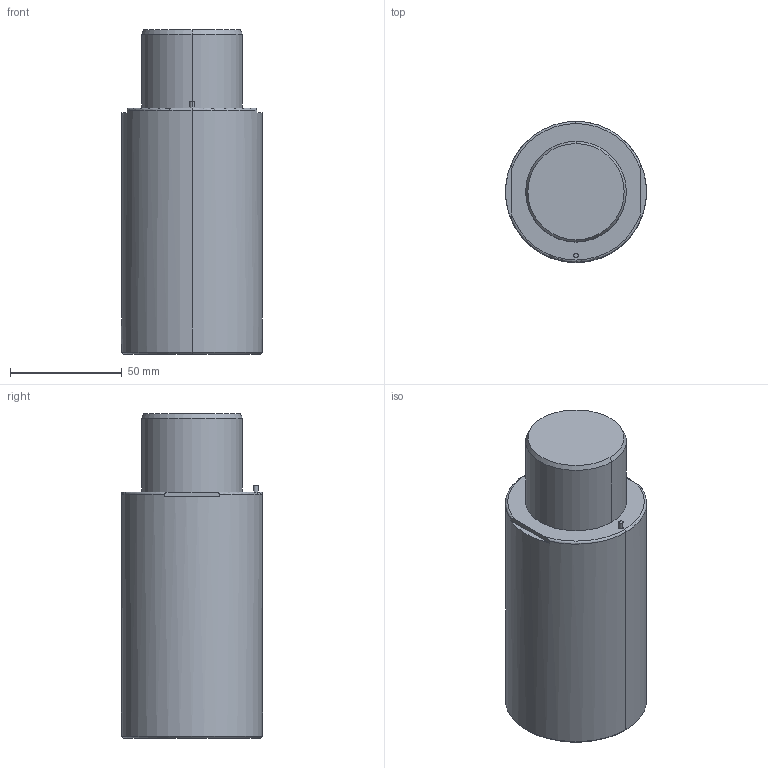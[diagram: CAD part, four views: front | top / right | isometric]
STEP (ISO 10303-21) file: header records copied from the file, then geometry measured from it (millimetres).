
FILE_DESCRIPTION(/* description */ (''),/* implementation_level */ '2;1');
FILE_NAME(/* name */ '3d_gsx63-32_03978_r00.stp',/* time_stamp */ '2011-01-10T14:15:12+09:00',/* author */ ('MISUMI'),/* organization */ (''),/* preprocessor_version */ 'ST-DEVELOPER v11',/* originating_system */ 'UGS - NX 5.0',/* authorisation */ '');
FILE_SCHEMA (('CONFIG_CONTROL_DESIGN'));
Length unit declared in the file: millimetre
Products named in the file (1): 3d_gsx63-32_03978_r00
Bounding box: 63 x 63 x 145 mm (x, y, z)
Volume: 394847.6 mm3; surface area: 34361.9 mm2
Topology: 1 solids, 1 shells, 59 faces, 130 edges, 78 vertices
Faces by surface type: cylinder 28, plane 15, cone 12, torus 4
Entity records: 1692 total; most frequent: DIRECTION 308, CARTESIAN_POINT 288, ORIENTED_EDGE 244, AXIS2_PLACEMENT_3D 130, EDGE_CURVE 122, VERTEX_POINT 78, EDGE_LOOP 72, CIRCLE 70
